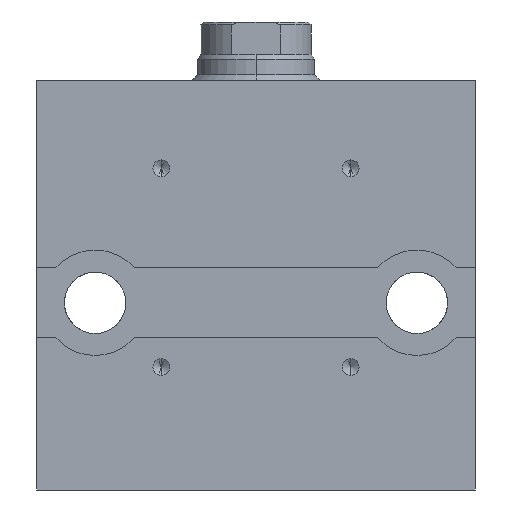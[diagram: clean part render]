
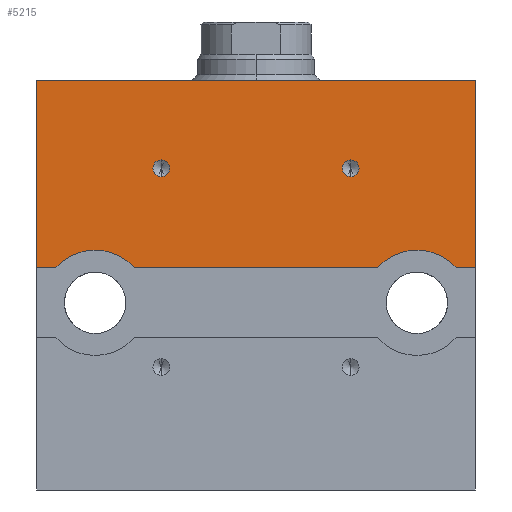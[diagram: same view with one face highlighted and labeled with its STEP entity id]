
A CAD part, left-side view. The second image highlights one B-rep face of the part: STEP entity #5215.
In plain terms, the highlighted planar face has unit normal (-1, 0, 0).
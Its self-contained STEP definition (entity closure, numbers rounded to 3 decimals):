
#30 = VECTOR ( 'NONE', #1657, 1000. ) ;
#160 = CARTESIAN_POINT ( 'NONE',  ( -27.5, -37.5, -42. ) ) ;
#189 = LINE ( 'NONE', #160, #5975 ) ;
#256 = CARTESIAN_POINT ( 'NONE',  ( -27.5, 37.5, -42. ) ) ;
#302 = CIRCLE ( 'NONE', #3792, 1.425 ) ;
#336 = CIRCLE ( 'NONE', #2800, 9. ) ;
#450 = ORIENTED_EDGE ( 'NONE', *, *, #935, .F. ) ;
#520 = VERTEX_POINT ( 'NONE', #3852 ) ;
#527 = EDGE_CURVE ( 'NONE', #1502, #4977, #302, .T. ) ;
#618 = ORIENTED_EDGE ( 'NONE', *, *, #4884, .F. ) ;
#750 = DIRECTION ( 'NONE',  ( -1., 0., 0. ) ) ;
#927 = DIRECTION ( 'NONE',  ( 0., 0., -1. ) ) ;
#934 = AXIS2_PLACEMENT_3D ( 'NONE', #1934, #3474, #927 ) ;
#935 = EDGE_CURVE ( 'NONE', #3206, #6353, #4605, .T. ) ;
#941 = DIRECTION ( 'NONE',  ( 0., 0., 1. ) ) ;
#995 = ORIENTED_EDGE ( 'NONE', *, *, #6785, .T. ) ;
#1066 = VERTEX_POINT ( 'NONE', #1129 ) ;
#1123 = DIRECTION ( 'NONE',  ( 0., 1., 0. ) ) ;
#1129 = CARTESIAN_POINT ( 'NONE',  ( -27.5, -16.2, -26.425 ) ) ;
#1345 = DIRECTION ( 'NONE',  ( -1., 0., 0. ) ) ;
#1432 = DIRECTION ( 'NONE',  ( -1., 0., 0. ) ) ;
#1495 = DIRECTION ( 'NONE',  ( 0., 0., 1. ) ) ;
#1500 = ORIENTED_EDGE ( 'NONE', *, *, #5046, .F. ) ;
#1502 = VERTEX_POINT ( 'NONE', #5997 ) ;
#1528 = DIRECTION ( 'NONE',  ( 0., 0., -1. ) ) ;
#1559 = AXIS2_PLACEMENT_3D ( 'NONE', #5251, #6849, #1569 ) ;
#1569 = DIRECTION ( 'NONE',  ( 0., 0., 1. ) ) ;
#1597 = AXIS2_PLACEMENT_3D ( 'NONE', #4261, #4862, #6389 ) ;
#1657 = DIRECTION ( 'NONE',  ( 0., 0., 1. ) ) ;
#1799 = CIRCLE ( 'NONE', #1597, 9. ) ;
#1900 = DIRECTION ( 'NONE',  ( 0., 1., 0. ) ) ;
#1916 = CIRCLE ( 'NONE', #934, 9. ) ;
#1934 = CARTESIAN_POINT ( 'NONE',  ( -27.5, -27.5, -48. ) ) ;
#1946 = CARTESIAN_POINT ( 'NONE',  ( -27.5, -37.5, -42. ) ) ;
#1954 = DIRECTION ( 'NONE',  ( 0., 0., 1. ) ) ;
#2000 = AXIS2_PLACEMENT_3D ( 'NONE', #4822, #6944, #1528 ) ;
#2088 = VERTEX_POINT ( 'NONE', #5315 ) ;
#2104 = EDGE_CURVE ( 'NONE', #3206, #6879, #1799, .T. ) ;
#2232 = ORIENTED_EDGE ( 'NONE', *, *, #2104, .T. ) ;
#2243 = VECTOR ( 'NONE', #2408, 1000. ) ;
#2313 = CARTESIAN_POINT ( 'NONE',  ( -27.5, 27.5, -48. ) ) ;
#2402 = ORIENTED_EDGE ( 'NONE', *, *, #527, .F. ) ;
#2408 = DIRECTION ( 'NONE',  ( 0., -1., 0. ) ) ;
#2532 = ORIENTED_EDGE ( 'NONE', *, *, #4379, .T. ) ;
#2541 = CARTESIAN_POINT ( 'NONE',  ( -27.5, -34.208, -42. ) ) ;
#2545 = EDGE_CURVE ( 'NONE', #1066, #6887, #5304, .T. ) ;
#2580 = FACE_OUTER_BOUND ( 'NONE', #4144, .T. ) ;
#2605 = VERTEX_POINT ( 'NONE', #1946 ) ;
#2621 = ORIENTED_EDGE ( 'NONE', *, *, #3052, .T. ) ;
#2800 = AXIS2_PLACEMENT_3D ( 'NONE', #2313, #3847, #5980 ) ;
#2820 = ORIENTED_EDGE ( 'NONE', *, *, #5093, .F. ) ;
#2850 = LINE ( 'NONE', #3384, #3508 ) ;
#2985 = CARTESIAN_POINT ( 'NONE',  ( -27.5, 16.2, -25. ) ) ;
#3025 = DIRECTION ( 'NONE',  ( 0., 0., 1. ) ) ;
#3052 = EDGE_CURVE ( 'NONE', #2605, #6952, #6557, .T. ) ;
#3076 = CARTESIAN_POINT ( 'NONE',  ( -27.5, -16.2, -25. ) ) ;
#3105 = LINE ( 'NONE', #6808, #4412 ) ;
#3147 = AXIS2_PLACEMENT_3D ( 'NONE', #3727, #1432, #1954 ) ;
#3151 = FACE_BOUND ( 'NONE', #3337, .T. ) ;
#3206 = VERTEX_POINT ( 'NONE', #4772 ) ;
#3337 = EDGE_LOOP ( 'NONE', ( #618, #4490 ) ) ;
#3384 = CARTESIAN_POINT ( 'NONE',  ( -27.5, -37.5, -42. ) ) ;
#3457 = CARTESIAN_POINT ( 'NONE',  ( -27.5, 27.5, -39. ) ) ;
#3474 = DIRECTION ( 'NONE',  ( 1., 0., 0. ) ) ;
#3508 = VECTOR ( 'NONE', #1123, 1000. ) ;
#3720 = CIRCLE ( 'NONE', #1559, 1.425 ) ;
#3727 = CARTESIAN_POINT ( 'NONE',  ( -27.5, 37.5, -80. ) ) ;
#3746 = VECTOR ( 'NONE', #1900, 1000. ) ;
#3792 = AXIS2_PLACEMENT_3D ( 'NONE', #2985, #750, #6686 ) ;
#3847 = DIRECTION ( 'NONE',  ( 1., 0., 0. ) ) ;
#3852 = CARTESIAN_POINT ( 'NONE',  ( -27.5, 20.792, -42. ) ) ;
#4071 = AXIS2_PLACEMENT_3D ( 'NONE', #6166, #1345, #3025 ) ;
#4144 = EDGE_LOOP ( 'NONE', ( #1500, #6946, #2532, #2820, #2621, #4156, #4424, #450, #2232, #995 ) ) ;
#4149 = VERTEX_POINT ( 'NONE', #6610 ) ;
#4156 = ORIENTED_EDGE ( 'NONE', *, *, #4173, .F. ) ;
#4173 = EDGE_CURVE ( 'NONE', #4648, #6952, #6639, .T. ) ;
#4256 = EDGE_CURVE ( 'NONE', #6353, #4648, #3105, .T. ) ;
#4261 = CARTESIAN_POINT ( 'NONE',  ( -27.5, 27.5, -48. ) ) ;
#4379 = EDGE_CURVE ( 'NONE', #2088, #4383, #6532, .T. ) ;
#4383 = VERTEX_POINT ( 'NONE', #2541 ) ;
#4400 = CARTESIAN_POINT ( 'NONE',  ( -27.5, 37.5, -10. ) ) ;
#4412 = VECTOR ( 'NONE', #941, 1000. ) ;
#4424 = ORIENTED_EDGE ( 'NONE', *, *, #4256, .F. ) ;
#4490 = ORIENTED_EDGE ( 'NONE', *, *, #2545, .F. ) ;
#4605 = LINE ( 'NONE', #6343, #3746 ) ;
#4648 = VERTEX_POINT ( 'NONE', #4400 ) ;
#4715 = CARTESIAN_POINT ( 'NONE',  ( -27.5, -37.5, -10. ) ) ;
#4772 = CARTESIAN_POINT ( 'NONE',  ( -27.5, 34.208, -42. ) ) ;
#4822 = CARTESIAN_POINT ( 'NONE',  ( -27.5, -27.5, -48. ) ) ;
#4862 = DIRECTION ( 'NONE',  ( 1., 0., 0. ) ) ;
#4884 = EDGE_CURVE ( 'NONE', #6887, #1066, #6640, .T. ) ;
#4902 = ORIENTED_EDGE ( 'NONE', *, *, #6581, .F. ) ;
#4977 = VERTEX_POINT ( 'NONE', #6404 ) ;
#5046 = EDGE_CURVE ( 'NONE', #4149, #520, #2850, .T. ) ;
#5093 = EDGE_CURVE ( 'NONE', #2605, #4383, #189, .T. ) ;
#5215 = ADVANCED_FACE ( 'NONE', ( #6724, #3151, #2580 ), #6255, .T. ) ;
#5251 = CARTESIAN_POINT ( 'NONE',  ( -27.5, 16.2, -25. ) ) ;
#5272 = DIRECTION ( 'NONE',  ( -1., 0., 0. ) ) ;
#5304 = CIRCLE ( 'NONE', #6193, 1.425 ) ;
#5315 = CARTESIAN_POINT ( 'NONE',  ( -27.5, -27.5, -39. ) ) ;
#5400 = DIRECTION ( 'NONE',  ( 0., 1., 0. ) ) ;
#5563 = CARTESIAN_POINT ( 'NONE',  ( -27.5, -16.2, -23.575 ) ) ;
#5924 = EDGE_CURVE ( 'NONE', #4149, #2088, #1916, .T. ) ;
#5937 = EDGE_LOOP ( 'NONE', ( #2402, #4902 ) ) ;
#5951 = CARTESIAN_POINT ( 'NONE',  ( -27.5, -37.5, -80. ) ) ;
#5975 = VECTOR ( 'NONE', #5400, 1000. ) ;
#5980 = DIRECTION ( 'NONE',  ( 0., 0., -1. ) ) ;
#5997 = CARTESIAN_POINT ( 'NONE',  ( -27.5, 16.2, -23.575 ) ) ;
#6166 = CARTESIAN_POINT ( 'NONE',  ( -27.5, -16.2, -25. ) ) ;
#6193 = AXIS2_PLACEMENT_3D ( 'NONE', #3076, #5272, #1495 ) ;
#6255 = PLANE ( 'NONE',  #3147 ) ;
#6343 = CARTESIAN_POINT ( 'NONE',  ( -27.5, -37.5, -42. ) ) ;
#6353 = VERTEX_POINT ( 'NONE', #256 ) ;
#6389 = DIRECTION ( 'NONE',  ( 0., 0., -1. ) ) ;
#6404 = CARTESIAN_POINT ( 'NONE',  ( -27.5, 16.2, -26.425 ) ) ;
#6532 = CIRCLE ( 'NONE', #2000, 9. ) ;
#6557 = LINE ( 'NONE', #5951, #30 ) ;
#6581 = EDGE_CURVE ( 'NONE', #4977, #1502, #3720, .T. ) ;
#6610 = CARTESIAN_POINT ( 'NONE',  ( -27.5, -20.792, -42. ) ) ;
#6639 = LINE ( 'NONE', #6678, #2243 ) ;
#6640 = CIRCLE ( 'NONE', #4071, 1.425 ) ;
#6678 = CARTESIAN_POINT ( 'NONE',  ( -27.5, 37.5, -10. ) ) ;
#6686 = DIRECTION ( 'NONE',  ( 0., 0., 1. ) ) ;
#6724 = FACE_BOUND ( 'NONE', #5937, .T. ) ;
#6785 = EDGE_CURVE ( 'NONE', #6879, #520, #336, .T. ) ;
#6808 = CARTESIAN_POINT ( 'NONE',  ( -27.5, 37.5, -80. ) ) ;
#6849 = DIRECTION ( 'NONE',  ( -1., 0., 0. ) ) ;
#6879 = VERTEX_POINT ( 'NONE', #3457 ) ;
#6887 = VERTEX_POINT ( 'NONE', #5563 ) ;
#6944 = DIRECTION ( 'NONE',  ( 1., 0., 0. ) ) ;
#6946 = ORIENTED_EDGE ( 'NONE', *, *, #5924, .T. ) ;
#6952 = VERTEX_POINT ( 'NONE', #4715 ) ;
